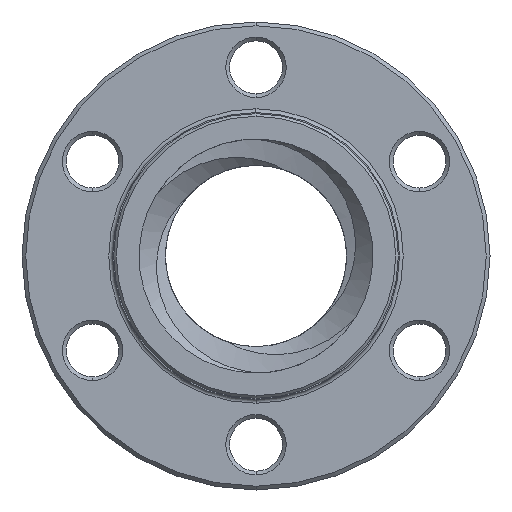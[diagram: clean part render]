
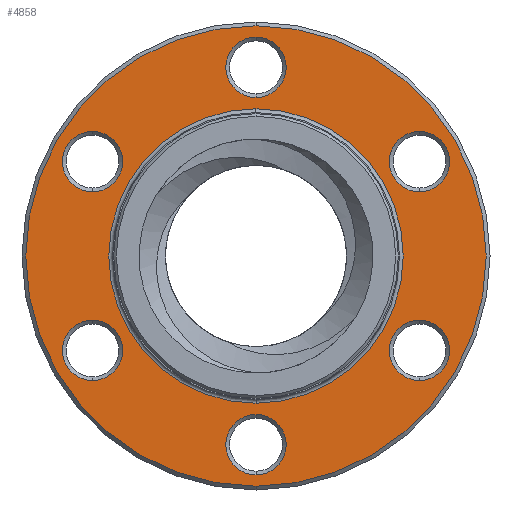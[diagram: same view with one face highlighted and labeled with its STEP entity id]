
A CAD part, left-side view. The second image highlights one B-rep face of the part: STEP entity #4858.
In plain terms, the highlighted planar face has unit normal (-1, 0, 0).
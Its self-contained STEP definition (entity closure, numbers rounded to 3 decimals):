
#1972=CARTESIAN_POINT('',(0.,0.,-25.));
#1973=DIRECTION('',(1.,0.,0.));
#1974=DIRECTION('',(0.,0.,1.));
#1975=AXIS2_PLACEMENT_3D('',#1972,#1973,#1974);
#1977=CARTESIAN_POINT('',(0.,0.,-25.));
#1978=DIRECTION('',(1.,0.,0.));
#1979=DIRECTION('',(0.,0.,-1.));
#1980=AXIS2_PLACEMENT_3D('',#1977,#1978,#1979);
#1982=CARTESIAN_POINT('',(0.,21.651,-12.5));
#1983=DIRECTION('',(1.,0.,0.));
#1984=DIRECTION('',(0.,0.,1.));
#1985=AXIS2_PLACEMENT_3D('',#1982,#1983,#1984);
#1987=CARTESIAN_POINT('',(0.,21.651,-12.5));
#1988=DIRECTION('',(1.,0.,0.));
#1989=DIRECTION('',(0.,0.,-1.));
#1990=AXIS2_PLACEMENT_3D('',#1987,#1988,#1989);
#1992=CARTESIAN_POINT('',(0.,21.651,12.5));
#1993=DIRECTION('',(1.,0.,0.));
#1994=DIRECTION('',(0.,0.,1.));
#1995=AXIS2_PLACEMENT_3D('',#1992,#1993,#1994);
#1997=CARTESIAN_POINT('',(0.,21.651,12.5));
#1998=DIRECTION('',(1.,0.,0.));
#1999=DIRECTION('',(0.,0.,-1.));
#2000=AXIS2_PLACEMENT_3D('',#1997,#1998,#1999);
#2002=CARTESIAN_POINT('',(0.,0.,25.));
#2003=DIRECTION('',(1.,0.,0.));
#2004=DIRECTION('',(0.,0.,1.));
#2005=AXIS2_PLACEMENT_3D('',#2002,#2003,#2004);
#2007=CARTESIAN_POINT('',(0.,0.,25.));
#2008=DIRECTION('',(1.,0.,0.));
#2009=DIRECTION('',(0.,0.,-1.));
#2010=AXIS2_PLACEMENT_3D('',#2007,#2008,#2009);
#2012=CARTESIAN_POINT('',(0.,-21.651,12.5));
#2013=DIRECTION('',(1.,0.,0.));
#2014=DIRECTION('',(0.,0.,1.));
#2015=AXIS2_PLACEMENT_3D('',#2012,#2013,#2014);
#2017=CARTESIAN_POINT('',(0.,-21.651,12.5));
#2018=DIRECTION('',(1.,0.,0.));
#2019=DIRECTION('',(0.,0.,-1.));
#2020=AXIS2_PLACEMENT_3D('',#2017,#2018,#2019);
#2022=CARTESIAN_POINT('',(0.,-21.651,-12.5));
#2023=DIRECTION('',(1.,0.,0.));
#2024=DIRECTION('',(0.,0.,1.));
#2025=AXIS2_PLACEMENT_3D('',#2022,#2023,#2024);
#2027=CARTESIAN_POINT('',(0.,-21.651,-12.5));
#2028=DIRECTION('',(1.,0.,0.));
#2029=DIRECTION('',(0.,0.,-1.));
#2030=AXIS2_PLACEMENT_3D('',#2027,#2028,#2029);
#2032=CARTESIAN_POINT('',(0.,0.,
0.));
#2033=DIRECTION('',(-1.,0.,0.));
#2034=DIRECTION('',(0.,0.,-1.));
#2035=AXIS2_PLACEMENT_3D('',#2032,#2033,#2034);
#2037=CARTESIAN_POINT('',(0.,0.,
0.));
#2038=DIRECTION('',(-1.,0.,0.));
#2039=DIRECTION('',(0.,0.,1.));
#2040=AXIS2_PLACEMENT_3D('',#2037,#2038,#2039);
#2042=CARTESIAN_POINT('',(0.,0.,0.));
#2043=DIRECTION('',(1.,0.,0.));
#2044=DIRECTION('',(0.,0.,1.));
#2045=AXIS2_PLACEMENT_3D('',#2042,#2043,#2044);
#2047=CARTESIAN_POINT('',(0.,0.,0.));
#2048=DIRECTION('',(1.,0.,0.));
#2049=DIRECTION('',(0.,0.,-1.));
#2050=AXIS2_PLACEMENT_3D('',#2047,#2048,#2049);
#2454=CARTESIAN_POINT('',(0.,0.,-21.));
#2455=CARTESIAN_POINT('',(0.,0.,-29.));
#2456=VERTEX_POINT('',#2454);
#2457=VERTEX_POINT('',#2455);
#2470=CARTESIAN_POINT('',(0.,21.651,
-8.5));
#2471=CARTESIAN_POINT('',(0.,21.651,
-16.5));
#2472=VERTEX_POINT('',#2470);
#2473=VERTEX_POINT('',#2471);
#2486=CARTESIAN_POINT('',(0.,21.651,16.5));
#2487=CARTESIAN_POINT('',(0.,21.651,8.5));
#2488=VERTEX_POINT('',#2486);
#2489=VERTEX_POINT('',#2487);
#2502=CARTESIAN_POINT('',(0.,0.,29.));
#2503=CARTESIAN_POINT('',(0.,0.,21.));
#2504=VERTEX_POINT('',#2502);
#2505=VERTEX_POINT('',#2503);
#2518=CARTESIAN_POINT('',(0.,-21.651,
16.5));
#2519=CARTESIAN_POINT('',(0.,-21.651,
8.5));
#2520=VERTEX_POINT('',#2518);
#2521=VERTEX_POINT('',#2519);
#2534=CARTESIAN_POINT('',(0.,-21.651,
-8.5));
#2535=CARTESIAN_POINT('',(0.,-21.651,
-16.5));
#2536=VERTEX_POINT('',#2534);
#2537=VERTEX_POINT('',#2535);
#2550=CARTESIAN_POINT('',(0.,0.,-30.5));
#2551=CARTESIAN_POINT('',(0.,0.,30.5));
#2552=VERTEX_POINT('',#2550);
#2553=VERTEX_POINT('',#2551);
#2566=CARTESIAN_POINT('',(0.,0.,19.5));
#2567=CARTESIAN_POINT('',(0.,0.,-19.5));
#2568=VERTEX_POINT('',#2566);
#2569=VERTEX_POINT('',#2567);
#4806=CARTESIAN_POINT('',(0.,0.,0.));
#4807=DIRECTION('',(1.,0.,0.));
#4808=DIRECTION('',(0.,0.,-1.));
#4809=AXIS2_PLACEMENT_3D('',#4806,#4807,#4808);
#4810=PLANE('',#4809);
#4812=ORIENTED_EDGE('',*,*,#4811,.F.);
#4814=ORIENTED_EDGE('',*,*,#4813,.F.);
#4815=EDGE_LOOP('',(#4812,#4814));
#4816=FACE_OUTER_BOUND('',#4815,.F.);
#4817=ORIENTED_EDGE('',*,*,#4796,.F.);
#4819=ORIENTED_EDGE('',*,*,#4818,.F.);
#4820=EDGE_LOOP('',(#4817,#4819));
#4821=FACE_BOUND('',#4820,.F.);
#4823=ORIENTED_EDGE('',*,*,#4822,.F.);
#4825=ORIENTED_EDGE('',*,*,#4824,.F.);
#4826=EDGE_LOOP('',(#4823,#4825));
#4827=FACE_BOUND('',#4826,.F.);
#4829=ORIENTED_EDGE('',*,*,#4828,.F.);
#4831=ORIENTED_EDGE('',*,*,#4830,.F.);
#4832=EDGE_LOOP('',(#4829,#4831));
#4833=FACE_BOUND('',#4832,.F.);
#4835=ORIENTED_EDGE('',*,*,#4834,.F.);
#4837=ORIENTED_EDGE('',*,*,#4836,.F.);
#4838=EDGE_LOOP('',(#4835,#4837));
#4839=FACE_BOUND('',#4838,.F.);
#4841=ORIENTED_EDGE('',*,*,#4840,.F.);
#4843=ORIENTED_EDGE('',*,*,#4842,.F.);
#4844=EDGE_LOOP('',(#4841,#4843));
#4845=FACE_BOUND('',#4844,.F.);
#4847=ORIENTED_EDGE('',*,*,#4846,.F.);
#4849=ORIENTED_EDGE('',*,*,#4848,.F.);
#4850=EDGE_LOOP('',(#4847,#4849));
#4851=FACE_BOUND('',#4850,.F.);
#4853=ORIENTED_EDGE('',*,*,#4852,.F.);
#4855=ORIENTED_EDGE('',*,*,#4854,.F.);
#4856=EDGE_LOOP('',(#4853,#4855));
#4857=FACE_BOUND('',#4856,.F.);
#4858=ADVANCED_FACE('',(#4816,#4821,#4827,#4833,#4839,#4845,#4851,#4857),#4810,
.F.);
#1976=CIRCLE('',#1975,4.);
#1981=CIRCLE('',#1980,4.);
#1986=CIRCLE('',#1985,4.);
#1991=CIRCLE('',#1990,4.);
#1996=CIRCLE('',#1995,4.);
#2001=CIRCLE('',#2000,4.);
#2006=CIRCLE('',#2005,4.);
#2011=CIRCLE('',#2010,4.);
#2016=CIRCLE('',#2015,4.);
#2021=CIRCLE('',#2020,4.);
#2026=CIRCLE('',#2025,4.);
#2031=CIRCLE('',#2030,4.);
#2036=CIRCLE('',#2035,30.5);
#2041=CIRCLE('',#2040,30.5);
#2046=CIRCLE('',#2045,19.5);
#2051=CIRCLE('',#2050,19.5);
#4796=EDGE_CURVE('',#2456,#2457,#1976,.T.);
#4811=EDGE_CURVE('',#2552,#2553,#2036,.T.);
#4813=EDGE_CURVE('',#2553,#2552,#2041,.T.);
#4818=EDGE_CURVE('',#2457,#2456,#1981,.T.);
#4822=EDGE_CURVE('',#2472,#2473,#1986,.T.);
#4824=EDGE_CURVE('',#2473,#2472,#1991,.T.);
#4828=EDGE_CURVE('',#2488,#2489,#1996,.T.);
#4830=EDGE_CURVE('',#2489,#2488,#2001,.T.);
#4834=EDGE_CURVE('',#2504,#2505,#2006,.T.);
#4836=EDGE_CURVE('',#2505,#2504,#2011,.T.);
#4840=EDGE_CURVE('',#2520,#2521,#2016,.T.);
#4842=EDGE_CURVE('',#2521,#2520,#2021,.T.);
#4846=EDGE_CURVE('',#2536,#2537,#2026,.T.);
#4848=EDGE_CURVE('',#2537,#2536,#2031,.T.);
#4852=EDGE_CURVE('',#2568,#2569,#2046,.T.);
#4854=EDGE_CURVE('',#2569,#2568,#2051,.T.);
